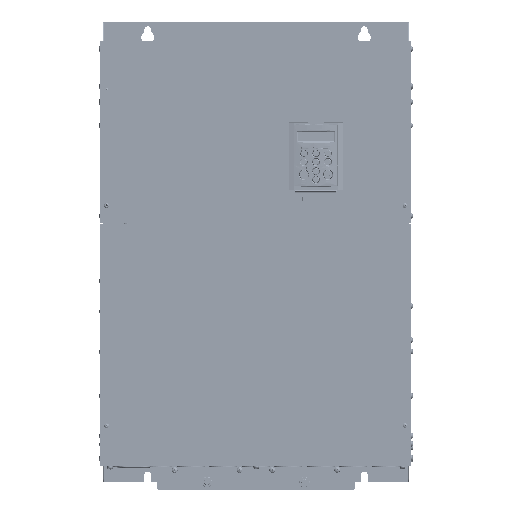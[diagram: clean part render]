
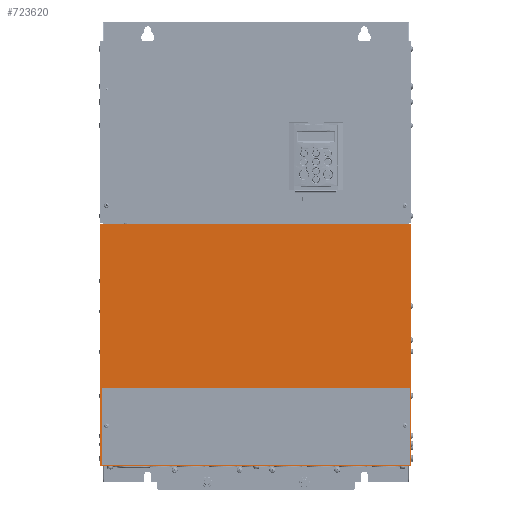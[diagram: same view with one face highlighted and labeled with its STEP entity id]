
A CAD part, top view. The second image highlights one B-rep face of the part: STEP entity #723620.
In plain terms, the highlighted planar face has unit normal (0, 0, 1).
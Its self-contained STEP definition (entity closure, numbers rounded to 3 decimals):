
#11255=FACE_BOUND('',#105157,.T.);
#63757=FACE_OUTER_BOUND('',#105156,.T.);
#105156=EDGE_LOOP('',(#614972,#614973,#614974,#614975));
#105157=EDGE_LOOP('',(#614976,#614977,#614978,#614979));
#132837=LINE('',#1099382,#200391);
#132844=LINE('',#1099393,#200398);
#132846=LINE('',#1099398,#200400);
#132848=LINE('',#1099401,#200402);
#170186=LINE('',#1316411,#237740);
#170187=LINE('',#1316413,#237741);
#170188=LINE('',#1316415,#237742);
#170189=LINE('',#1316416,#237743);
#200391=VECTOR('',#840211,1.);
#200398=VECTOR('',#840220,1.);
#200400=VECTOR('',#840224,1.);
#200402=VECTOR('',#840228,1.);
#237740=VECTOR('',#956226,10.);
#237741=VECTOR('',#956227,10.);
#237742=VECTOR('',#956228,10.);
#237743=VECTOR('',#956229,10.);
#285702=VERTEX_POINT('',#1099379);
#285703=VERTEX_POINT('',#1099381);
#285706=VERTEX_POINT('',#1099391);
#285708=VERTEX_POINT('',#1099396);
#324639=VERTEX_POINT('',#1316409);
#324640=VERTEX_POINT('',#1316410);
#324641=VERTEX_POINT('',#1316412);
#324642=VERTEX_POINT('',#1316414);
#362059=EDGE_CURVE('',#285702,#285703,#132837,.T.);
#362066=EDGE_CURVE('',#285702,#285706,#132844,.T.);
#362068=EDGE_CURVE('',#285706,#285708,#132846,.T.);
#362070=EDGE_CURVE('',#285708,#285703,#132848,.T.);
#422608=EDGE_CURVE('',#324639,#324640,#170186,.T.);
#422609=EDGE_CURVE('',#324640,#324641,#170187,.T.);
#422610=EDGE_CURVE('',#324641,#324642,#170188,.T.);
#422611=EDGE_CURVE('',#324642,#324639,#170189,.T.);
#614972=ORIENTED_EDGE('',*,*,#362066,.T.);
#614973=ORIENTED_EDGE('',*,*,#362068,.T.);
#614974=ORIENTED_EDGE('',*,*,#362070,.T.);
#614975=ORIENTED_EDGE('',*,*,#362059,.F.);
#614976=ORIENTED_EDGE('',*,*,#422608,.T.);
#614977=ORIENTED_EDGE('',*,*,#422609,.T.);
#614978=ORIENTED_EDGE('',*,*,#422610,.T.);
#614979=ORIENTED_EDGE('',*,*,#422611,.T.);
#657575=PLANE('',#782466);
#723620=ADVANCED_FACE('',(#63757,#11255),#657575,.T.);
#782466=AXIS2_PLACEMENT_3D('',#1316408,#956224,#956225);
#840211=DIRECTION('',(1.,0.,0.));
#840220=DIRECTION('',(0.,-1.,0.));
#840224=DIRECTION('',(1.,0.,0.));
#840228=DIRECTION('',(0.,1.,0.));
#956224=DIRECTION('center_axis',(0.,0.,1.));
#956225=DIRECTION('ref_axis',(0.,1.,0.));
#956226=DIRECTION('',(1.,0.,0.));
#956227=DIRECTION('',(0.,-1.,0.));
#956228=DIRECTION('',(-1.,0.,0.));
#956229=DIRECTION('',(0.,1.,0.));
#1099379=CARTESIAN_POINT('',(123.604,574.654,356.928));
#1099381=CARTESIAN_POINT('',(639.604,574.654,356.928));
#1099382=CARTESIAN_POINT('',(381.604,574.654,356.928));
#1099391=CARTESIAN_POINT('',(123.604,172.654,356.928));
#1099393=CARTESIAN_POINT('',(123.604,373.654,356.928));
#1099396=CARTESIAN_POINT('',(639.604,172.654,356.928));
#1099398=CARTESIAN_POINT('',(381.604,172.654,356.928));
#1099401=CARTESIAN_POINT('',(639.604,373.654,356.928));
#1316408=CARTESIAN_POINT('Origin',(381.604,525.654,356.928));
#1316409=CARTESIAN_POINT('',(125.604,302.704,356.928));
#1316410=CARTESIAN_POINT('',(637.604,302.704,356.928));
#1316411=CARTESIAN_POINT('',(509.604,302.704,356.928));
#1316412=CARTESIAN_POINT('',(637.604,174.654,356.928));
#1316413=CARTESIAN_POINT('',(637.604,415.179,356.928));
#1316414=CARTESIAN_POINT('',(125.604,174.654,356.928));
#1316415=CARTESIAN_POINT('',(509.604,174.654,356.928));
#1316416=CARTESIAN_POINT('',(125.604,350.154,356.928));
